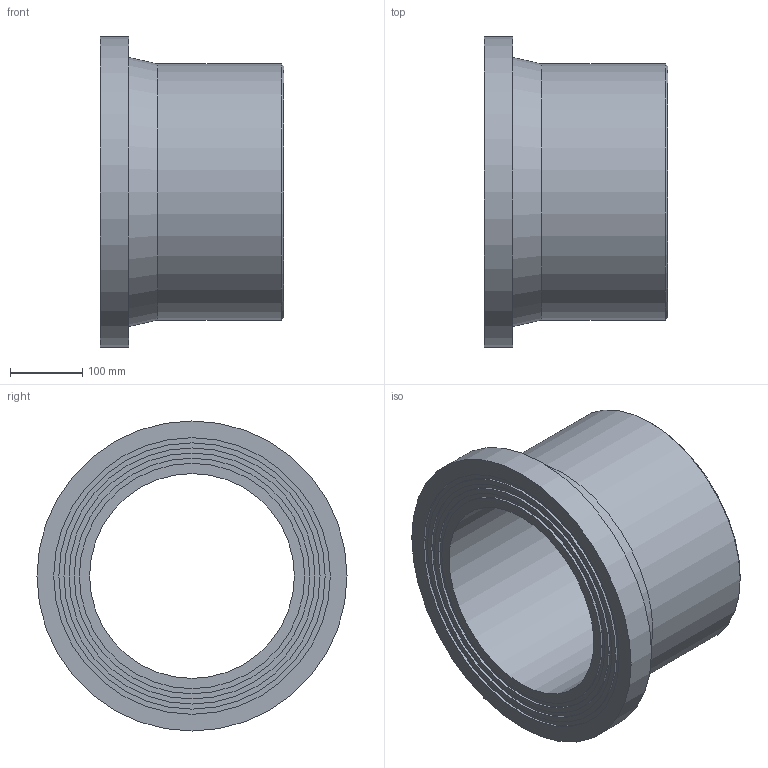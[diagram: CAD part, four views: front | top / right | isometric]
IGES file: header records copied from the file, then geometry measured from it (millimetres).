
Global section: file name: 490207355.ipt; native system: Autodesk Inventor 2015; preprocessor: unknown; author: Кирилл,,11,0; organization: 20170718.095537; date: 20190331.185840; units: millimetre
Bounding box: 255 x 430 x 430 mm (x, y, z)
Volume: 11050474.4 mm3; surface area: 698004.7 mm2
Topology: 1 solids, 1 shells, 20 faces, 33 edges, 22 vertices
Faces by surface type: plane 9, cylinder 5, revolution 4, cone 2
Full cylindrical faces by diameter (mm): 312.4 x1, 340.8 x1, 355 x1, 369.2 x1, 430 x1
